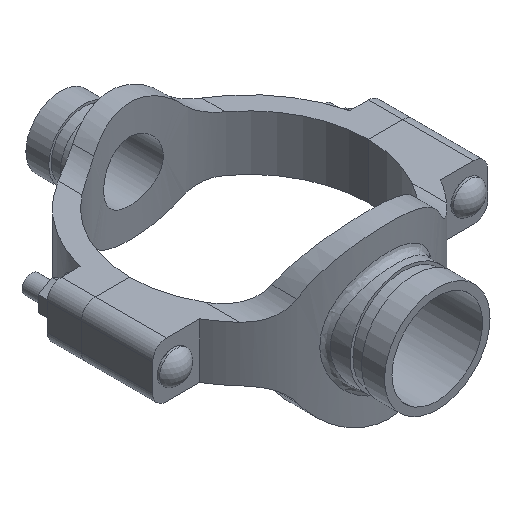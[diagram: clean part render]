
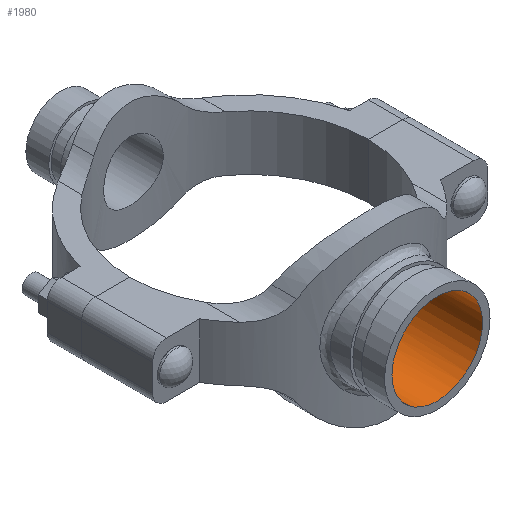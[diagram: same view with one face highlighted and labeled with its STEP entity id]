
A CAD part, isometric view. The second image highlights one B-rep face of the part: STEP entity #1980.
In plain terms, the highlighted cylindrical face has radius 31.356 mm (diameter 62.713 mm), a full revolution.
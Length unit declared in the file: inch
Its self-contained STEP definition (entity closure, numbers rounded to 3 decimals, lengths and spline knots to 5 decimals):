
#50=B_SPLINE_CURVE_WITH_KNOTS('',3,(#4008,#4009,#4010,#4011,#4012,#4013,
#4014,#4015,#4016,#4017,#4018,#4019,#4020,#4021,#4022,#4023,#4024,#4025,
#4026,#4027,#4028,#4029,#4030,#4031,#4032,#4033,#4034,#4035,#4036,#4037,
#4038,#4039,#4040,#4041,#4042,#4043,#4044,#4045,#4046,#4047,#4048,#4049,
#4050,#4051,#4052,#4053,#4054,#4055,#4056,#4057,#4058,#4059,#4060,#4061,
#4062,#4063,#4064,#4065,#4066,#4067,#4068,#4069,#4070,#4071,#4072,#4073),
 .UNSPECIFIED.,.T.,.F.,(4,2,2,2,2,2,2,2,2,2,2,2,2,2,2,2,2,2,2,2,2,2,2,2,
2,2,2,2,2,2,2,2,4),(0.,0.59737,1.19475,1.79212,
2.38949,2.98638,3.58327,4.18016,4.77705,
5.37394,5.97083,6.56772,7.16461,7.76199,
8.35936,8.95673,9.55411,10.15148,10.74885,
11.34623,11.9436,12.54049,13.13738,13.73427,
14.33116,14.92805,15.52494,16.12183,16.71872,
17.31609,17.91346,18.51084,19.10821),
 .UNSPECIFIED.);
#95=CYLINDRICAL_SURFACE('',#2217,1.2345);
#212=FACE_OUTER_BOUND('',#334,.T.);
#334=EDGE_LOOP('',(#1592,#1593,#1594,#1595));
#484=LINE('',#4007,#632);
#632=VECTOR('',#2682,1.2345);
#734=CIRCLE('',#2218,1.2345);
#899=VERTEX_POINT('',#4004);
#900=VERTEX_POINT('',#4006);
#1144=EDGE_CURVE('',#899,#899,#734,.T.);
#1145=EDGE_CURVE('',#899,#900,#484,.T.);
#1146=EDGE_CURVE('',#900,#900,#50,.T.);
#1592=ORIENTED_EDGE('',*,*,#1144,.F.);
#1593=ORIENTED_EDGE('',*,*,#1145,.T.);
#1594=ORIENTED_EDGE('',*,*,#1146,.F.);
#1595=ORIENTED_EDGE('',*,*,#1145,.F.);
#1980=ADVANCED_FACE('',(#212),#95,.F.);
#2217=AXIS2_PLACEMENT_3D('',#4003,#2678,#2679);
#2218=AXIS2_PLACEMENT_3D('',#4005,#2680,#2681);
#2678=DIRECTION('center_axis',(0.,-1.,0.));
#2679=DIRECTION('ref_axis',(-1.,0.,0.));
#2680=DIRECTION('center_axis',(0.,-1.,0.));
#2681=DIRECTION('ref_axis',(-1.,0.,0.));
#2682=DIRECTION('',(0.,-1.,0.));
#4003=CARTESIAN_POINT('Origin',(0.,5.13,0.));
#4004=CARTESIAN_POINT('',(1.2345,5.13,0.));
#4005=CARTESIAN_POINT('Origin',(0.,5.13,0.));
#4006=CARTESIAN_POINT('',(1.2345,3.00641,0.));
#4007=CARTESIAN_POINT('',(1.2345,5.13,0.));
#4008=CARTESIAN_POINT('Ctrl Pts',(1.2345,3.00641,0.));
#4009=CARTESIAN_POINT('Ctrl Pts',(1.2345,3.00641,-0.0784));
#4010=CARTESIAN_POINT('Ctrl Pts',(1.22691,3.00956,-0.15918));
#4011=CARTESIAN_POINT('Ctrl Pts',(1.19527,3.02227,-0.31933));
#4012=CARTESIAN_POINT('Ctrl Pts',(1.17123,3.03181,-0.3987));
#4013=CARTESIAN_POINT('Ctrl Pts',(1.10801,3.05548,-0.5505));
#4014=CARTESIAN_POINT('Ctrl Pts',(1.06879,3.0696,-0.62307));
#4015=CARTESIAN_POINT('Ctrl Pts',(0.97844,3.09958,-0.75708));
#4016=CARTESIAN_POINT('Ctrl Pts',(0.92731,3.11541,-0.81854));
#4017=CARTESIAN_POINT('Ctrl Pts',(0.81858,3.14573,-0.92727));
#4018=CARTESIAN_POINT('Ctrl Pts',(0.75715,3.16132,-0.97839));
#4019=CARTESIAN_POINT('Ctrl Pts',(0.62312,3.19044,-1.06876));
#4020=CARTESIAN_POINT('Ctrl Pts',(0.55052,3.20395,-1.10801));
#4021=CARTESIAN_POINT('Ctrl Pts',(0.39866,3.22637,-1.17125));
#4022=CARTESIAN_POINT('Ctrl Pts',(0.31926,3.23528,-1.19529));
#4023=CARTESIAN_POINT('Ctrl Pts',(0.15909,3.2471,-1.22692));
#4024=CARTESIAN_POINT('Ctrl Pts',(0.07833,3.25,-1.2345));
#4025=CARTESIAN_POINT('Ctrl Pts',(-0.07833,3.25,-1.2345));
#4026=CARTESIAN_POINT('Ctrl Pts',(-0.15909,3.2471,-1.22692));
#4027=CARTESIAN_POINT('Ctrl Pts',(-0.31926,3.23528,-1.19529));
#4028=CARTESIAN_POINT('Ctrl Pts',(-0.39866,3.22637,-1.17125));
#4029=CARTESIAN_POINT('Ctrl Pts',(-0.55052,3.20395,-1.10801));
#4030=CARTESIAN_POINT('Ctrl Pts',(-0.62312,3.19044,-1.06876));
#4031=CARTESIAN_POINT('Ctrl Pts',(-0.75715,3.16132,-0.97839));
#4032=CARTESIAN_POINT('Ctrl Pts',(-0.81858,3.14573,-0.92727));
#4033=CARTESIAN_POINT('Ctrl Pts',(-0.92731,3.11541,-0.81854));
#4034=CARTESIAN_POINT('Ctrl Pts',(-0.97844,3.09958,-0.75708));
#4035=CARTESIAN_POINT('Ctrl Pts',(-1.06879,3.0696,-0.62307));
#4036=CARTESIAN_POINT('Ctrl Pts',(-1.10801,3.05548,-0.5505));
#4037=CARTESIAN_POINT('Ctrl Pts',(-1.17123,3.03181,-0.3987));
#4038=CARTESIAN_POINT('Ctrl Pts',(-1.19527,3.02227,-0.31933));
#4039=CARTESIAN_POINT('Ctrl Pts',(-1.22691,3.00956,-0.15918));
#4040=CARTESIAN_POINT('Ctrl Pts',(-1.2345,3.00641,-0.0784));
#4041=CARTESIAN_POINT('Ctrl Pts',(-1.2345,3.00641,0.0784));
#4042=CARTESIAN_POINT('Ctrl Pts',(-1.22691,3.00956,0.15918));
#4043=CARTESIAN_POINT('Ctrl Pts',(-1.19527,3.02227,0.31933));
#4044=CARTESIAN_POINT('Ctrl Pts',(-1.17123,3.03181,0.3987));
#4045=CARTESIAN_POINT('Ctrl Pts',(-1.10801,3.05548,0.5505));
#4046=CARTESIAN_POINT('Ctrl Pts',(-1.06879,3.0696,0.62307));
#4047=CARTESIAN_POINT('Ctrl Pts',(-0.97844,3.09958,0.75708));
#4048=CARTESIAN_POINT('Ctrl Pts',(-0.92731,3.11541,0.81854));
#4049=CARTESIAN_POINT('Ctrl Pts',(-0.81858,3.14573,0.92727));
#4050=CARTESIAN_POINT('Ctrl Pts',(-0.75715,3.16132,0.97839));
#4051=CARTESIAN_POINT('Ctrl Pts',(-0.62312,3.19044,1.06876));
#4052=CARTESIAN_POINT('Ctrl Pts',(-0.55052,3.20395,1.10801));
#4053=CARTESIAN_POINT('Ctrl Pts',(-0.39866,3.22637,1.17125));
#4054=CARTESIAN_POINT('Ctrl Pts',(-0.31926,3.23528,1.19529));
#4055=CARTESIAN_POINT('Ctrl Pts',(-0.15909,3.2471,1.22692));
#4056=CARTESIAN_POINT('Ctrl Pts',(-0.07833,3.25,1.2345));
#4057=CARTESIAN_POINT('Ctrl Pts',(0.07833,3.25,1.2345));
#4058=CARTESIAN_POINT('Ctrl Pts',(0.15909,3.2471,1.22692));
#4059=CARTESIAN_POINT('Ctrl Pts',(0.31926,3.23528,1.19529));
#4060=CARTESIAN_POINT('Ctrl Pts',(0.39866,3.22637,1.17125));
#4061=CARTESIAN_POINT('Ctrl Pts',(0.55052,3.20395,1.10801));
#4062=CARTESIAN_POINT('Ctrl Pts',(0.62312,3.19044,1.06876));
#4063=CARTESIAN_POINT('Ctrl Pts',(0.75715,3.16132,0.97839));
#4064=CARTESIAN_POINT('Ctrl Pts',(0.81858,3.14573,0.92727));
#4065=CARTESIAN_POINT('Ctrl Pts',(0.92731,3.11541,0.81854));
#4066=CARTESIAN_POINT('Ctrl Pts',(0.97844,3.09958,0.75708));
#4067=CARTESIAN_POINT('Ctrl Pts',(1.06879,3.0696,0.62307));
#4068=CARTESIAN_POINT('Ctrl Pts',(1.10801,3.05548,0.5505));
#4069=CARTESIAN_POINT('Ctrl Pts',(1.17123,3.03181,0.3987));
#4070=CARTESIAN_POINT('Ctrl Pts',(1.19527,3.02227,0.31933));
#4071=CARTESIAN_POINT('Ctrl Pts',(1.22691,3.00956,0.15918));
#4072=CARTESIAN_POINT('Ctrl Pts',(1.2345,3.00641,0.0784));
#4073=CARTESIAN_POINT('Ctrl Pts',(1.2345,3.00641,0.));
